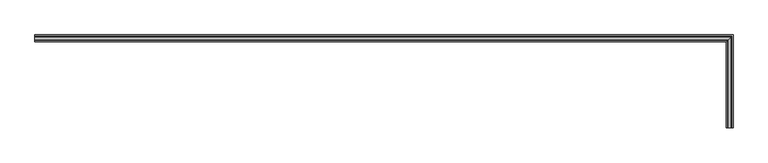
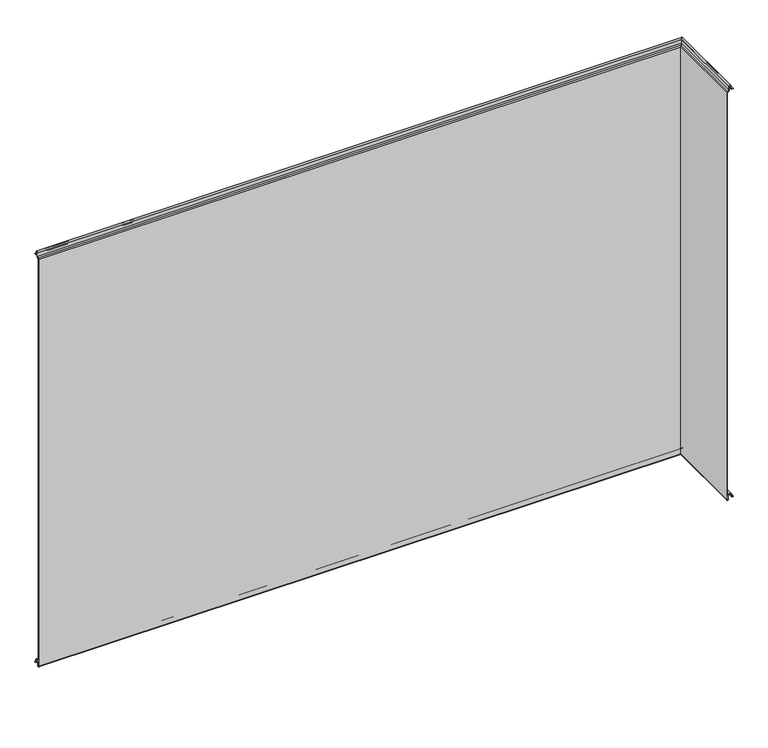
"""IFC4 building model written with IfcOpenShell, lengths in millimetres: plate geometry, Угловой модуль Fronttop : Угловой модуль Fronttop 150/1000."""

from ifc_helpers import new_model, si_unit, frame, origin, place, context, project, spatial, polyline, circle_curve, ellipse_curve, source, transform, mapped, element, save
from ifc_brep_helpers import plane_surface, cylinder_surface, revolved_surface, advanced_brep


def plate_5a5dce70(model_context):
    return source(origin(), model_context, "Body", "AdvancedBrep", [
        advanced_brep(
        [(-809.5, 13.0, 1001.0), (-809.5, 15.0, 1001.0), (-809.5, 15.0, 1000.0), (-809.5, 13.0, 1000.0), (-809.5, 9.0, 1004.0), (-809.5, 9.0, 1008.0), (-809.5, 6.0, 1008.0), (-809.5, 6.0, 999.5), (-809.5, 2.1134897, 996.0214069), (-809.5, 1.0, 995.0), (-809.5, 1.0, -0.5), (-809.5, 3.0, -0.5), (-809.5, 3.0, 8.0), (-809.5, 12.0, 8.0), (-809.5, 12.0, 4.0), (-809.5, 13.0, 3.0), (-809.5, 15.0, 3.0), (-809.5, 15.0, 2.0), (-809.5, 13.0, 2.0), (-809.5, 11.0, 4.0), (-809.5, 11.0, 8.0), (-809.5, 4.0, 8.0), (-809.5, 4.0, -0.5), (-809.5, 0.0, -0.5), (-809.5, 0.0, 995.0), (-809.5, 2.220863, 996.9877675), (-809.5, 5.0, 999.5), (-809.5, 5.0, 1008.0), (-809.5, 10.0, 1008.0), (-809.5, 10.0, 1004.0), (688.0, 13.0, 1001.0), (688.0, -184.5, 1001.0), (690.0, -184.5, 1001.0), (690.0, 15.0, 1001.0), (690.0, 15.0, 1000.0), (690.0, -184.5, 1000.0), (688.0, -184.5, 1000.0), (688.0, 13.0, 1000.0), (684.0, 9.0, 1004.0), (684.0, 9.0, 1008.0), (681.0, 6.0, 1008.0), (681.0, 6.0, 999.5), (677.1134897, 2.1134897, 996.0214069), (676.0, 1.0, 995.0), (676.0, 1.0, -0.5), (678.0, 3.0, -0.5), (678.0, 3.0, 8.0), (687.0, 12.0, 8.0), (687.0, 12.0, 4.0), (688.0, 13.0, 3.0), (688.0, -184.5, 3.0), (690.0, -184.5, 3.0), (690.0, 15.0, 3.0), (690.0, 15.0, 2.0), (690.0, -184.5, 2.0), (688.0, -184.5, 2.0), (688.0, 13.0, 2.0), (686.0, 11.0, 4.0), (686.0, 11.0, 8.0), (679.0, 4.0, 8.0), (679.0, 4.0, -0.5), (675.0, 0.0, -0.5), (675.0, 0.0, 995.0), (677.220863, 2.220863, 996.9877675), (680.0, 5.0, 999.5), (680.0, 5.0, 1008.0), (685.0, 10.0, 1008.0), (685.0, 10.0, 1004.0), (685.0, -184.5, 1004.0), (685.0, -184.5, 1008.0), (680.0, -184.5, 1008.0), (680.0, -184.5, 999.5), (677.2239212, -184.5, 997.0152907), (675.0, -184.5, 995.0), (675.0, -184.5, -0.5), (679.0, -184.5, -0.5), (679.0, -184.5, 8.0), (686.0, -184.5, 8.0), (686.0, -184.5, 4.0), (687.0, -184.5, 4.0), (687.0, -184.5, 8.0), (678.0, -184.5, 8.0), (678.0, -184.5, -0.5), (676.0, -184.5, -0.5), (676.0, -184.5, 995.0), (677.1104315, -184.5, 995.9938837), (681.0, -184.5, 999.5), (681.0, -184.5, 1008.0), (684.0, -184.5, 1008.0), (684.0, -184.5, 1004.0)],
        [
            (0, 1),
            (1, 2),
            (2, 3),
            (3, 4, circle_curve(frame((-809.5, 13.0, 1004.0), z_axis=(-1.0, 0.0, 0.0), x_axis=(0.0, -1.0, 0.0)), 4.0)),
            (4, 5),
            (5, 6, circle_curve(frame((-809.5, 7.5, 1008.0), z_axis=(1.0, 0.0, 0.0), x_axis=(0.0, -1.0, 0.0)), 1.5)),
            (6, 7),
            (7, 8, circle_curve(frame((-809.5, 2.5, 999.5), z_axis=(-1.0, 0.0, 0.0), x_axis=(0.0, -1.0, 0.0)), 3.5)),
            (8, 9, circle_curve(frame((-809.5, 2.0, 995.0), z_axis=(1.0, 0.0, 0.0), x_axis=(0.0, -1.0, 0.0)), 1.0)),
            (9, 10),
            (10, 11, circle_curve(frame((-809.5, 2.0, -0.5), z_axis=(1.0, 0.0, 0.0), x_axis=(0.0, -1.0, 0.0)), 1.0)),
            (11, 12),
            (12, 13, circle_curve(frame((-809.5, 7.5, 8.0), z_axis=(-1.0, 0.0, 0.0), x_axis=(0.0, -1.0, 0.0)), 4.5)),
            (13, 14),
            (14, 15, circle_curve(frame((-809.5, 13.0, 4.0), z_axis=(1.0, 0.0, 0.0), x_axis=(0.0, -1.0, 0.0)), 1.0)),
            (15, 16),
            (16, 17),
            (17, 18),
            (18, 19, circle_curve(frame((-809.5, 13.0, 4.0), z_axis=(-1.0, 0.0, 0.0), x_axis=(0.0, -1.0, 0.0)), 2.0)),
            (19, 20),
            (20, 21, circle_curve(frame((-809.5, 7.5, 8.0), z_axis=(1.0, 0.0, 0.0), x_axis=(0.0, -1.0, 0.0)), 3.5)),
            (21, 22),
            (22, 23, circle_curve(frame((-809.5, 2.0, -0.5), z_axis=(-1.0, 0.0, 0.0), x_axis=(0.0, -1.0, 0.0)), 2.0)),
            (23, 24),
            (24, 25, circle_curve(frame((-809.5, 2.0, 995.0), z_axis=(-1.0, 0.0, 0.0), x_axis=(0.0, -1.0, 0.0)), 2.0)),
            (25, 26, circle_curve(frame((-809.5, 2.5, 999.5), z_axis=(1.0, 0.0, 0.0), x_axis=(0.0, -1.0, 0.0)), 2.5)),
            (26, 27),
            (27, 28, circle_curve(frame((-809.5, 7.5, 1008.0), z_axis=(-1.0, 0.0, 0.0), x_axis=(0.0, -1.0, 0.0)), 2.5)),
            (28, 29),
            (29, 0, circle_curve(frame((-809.5, 13.0, 1004.0), z_axis=(1.0, 0.0, 0.0), x_axis=(0.0, -1.0, 0.0)), 3.0)),
            (0, 30),
            (30, 31),
            (31, 32),
            (32, 33),
            (33, 1),
            (33, 34),
            (34, 2),
            (34, 35),
            (35, 36),
            (36, 37),
            (37, 3),
            (37, 38, ellipse_curve(frame((688.0, 13.0, 1004.0), z_axis=(-0.7071067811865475, 0.7071067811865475, 0.0), x_axis=(-0.7071067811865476, -0.7071067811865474, 0.0)), 5.6568542, 4.0)),
            (38, 4),
            (38, 39),
            (39, 5),
            (39, 40, ellipse_curve(frame((682.5, 7.5, 1008.0), z_axis=(0.7071067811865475, -0.7071067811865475, 0.0), x_axis=(0.7071067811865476, 0.7071067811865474, 0.0)), 2.1213204, 1.5)),
            (40, 6),
            (40, 41),
            (41, 7),
            (41, 42, ellipse_curve(frame((677.5, 2.5, 999.5), z_axis=(-0.7071067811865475, 0.7071067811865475, 0.0), x_axis=(-0.7071067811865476, -0.7071067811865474, 0.0)), 4.9497475, 3.5)),
            (42, 8),
            (42, 43, ellipse_curve(frame((677.0, 2.0, 995.0), z_axis=(0.7071067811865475, -0.7071067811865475, 0.0), x_axis=(0.7071067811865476, 0.7071067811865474, 0.0)), 1.4142136, 1.0)),
            (43, 9),
            (43, 44),
            (44, 10),
            (44, 45, ellipse_curve(frame((677.0, 2.0, -0.5), z_axis=(0.7071067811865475, -0.7071067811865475, 0.0), x_axis=(0.7071067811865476, 0.7071067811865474, 0.0)), 1.4142136, 1.0)),
            (45, 11),
            (45, 46),
            (46, 12),
            (46, 47, ellipse_curve(frame((682.5, 7.5, 8.0), z_axis=(-0.7071067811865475, 0.7071067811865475, 0.0), x_axis=(-0.7071067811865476, -0.7071067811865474, 0.0)), 6.363961, 4.5)),
            (47, 13),
            (47, 48),
            (48, 14),
            (48, 49, ellipse_curve(frame((688.0, 13.0, 4.0), z_axis=(0.7071067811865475, -0.7071067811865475, 0.0), x_axis=(0.7071067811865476, 0.7071067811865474, 0.0)), 1.4142136, 1.0)),
            (49, 15),
            (49, 50),
            (50, 51),
            (51, 52),
            (52, 16),
            (52, 53),
            (53, 17),
            (53, 54),
            (54, 55),
            (55, 56),
            (56, 18),
            (56, 57, ellipse_curve(frame((688.0, 13.0, 4.0), z_axis=(-0.7071067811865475, 0.7071067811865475, 0.0), x_axis=(-0.7071067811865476, -0.7071067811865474, 0.0)), 2.8284271, 2.0)),
            (57, 19),
            (57, 58),
            (58, 20),
            (58, 59, ellipse_curve(frame((682.5, 7.5, 8.0), z_axis=(0.7071067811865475, -0.7071067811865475, 0.0), x_axis=(0.7071067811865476, 0.7071067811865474, 0.0)), 4.9497475, 3.5)),
            (59, 21),
            (59, 60),
            (60, 22),
            (60, 61, ellipse_curve(frame((677.0, 2.0, -0.5), z_axis=(-0.7071067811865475, 0.7071067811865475, 0.0), x_axis=(-0.7071067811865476, -0.7071067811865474, 0.0)), 2.8284271, 2.0)),
            (61, 23),
            (61, 62),
            (62, 24),
            (62, 63, ellipse_curve(frame((677.0, 2.0, 995.0), z_axis=(-0.7071067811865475, 0.7071067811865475, 0.0), x_axis=(-0.7071067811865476, -0.7071067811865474, 0.0)), 2.8284271, 2.0)),
            (63, 25),
            (63, 64, ellipse_curve(frame((677.5, 2.5, 999.5), z_axis=(0.7071067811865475, -0.7071067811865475, 0.0), x_axis=(0.7071067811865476, 0.7071067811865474, 0.0)), 3.5355339, 2.5)),
            (64, 26),
            (64, 65),
            (65, 27),
            (65, 66, ellipse_curve(frame((682.5, 7.5, 1008.0), z_axis=(-0.7071067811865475, 0.7071067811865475, 0.0), x_axis=(-0.7071067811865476, -0.7071067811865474, 0.0)), 3.5355339, 2.5)),
            (66, 28),
            (66, 67),
            (67, 29),
            (67, 30, ellipse_curve(frame((688.0, 13.0, 1004.0), z_axis=(0.7071067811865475, -0.7071067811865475, 0.0), x_axis=(0.7071067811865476, 0.7071067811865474, 0.0)), 4.2426407, 3.0)),
            (31, 68, circle_curve(frame((688.0, -184.5, 1004.0), z_axis=(0.0, 1.0, 0.0), x_axis=(-1.0, 0.0, 0.0)), 3.0)),
            (68, 69),
            (69, 70, circle_curve(frame((682.5, -184.5, 1008.0), z_axis=(0.0, -1.0, 0.0), x_axis=(-1.0, 0.0, 0.0)), 2.5)),
            (70, 71),
            (71, 72, circle_curve(frame((677.5, -184.5, 999.5), z_axis=(0.0, 1.0, 0.0), x_axis=(-1.0, 0.0, 0.0)), 2.5)),
            (72, 73, circle_curve(frame((677.0, -184.5, 995.0), z_axis=(0.0, -1.0, 0.0), x_axis=(-1.0, 0.0, 0.0)), 2.0)),
            (73, 74),
            (74, 75, circle_curve(frame((677.0, -184.5, -0.5), z_axis=(0.0, -1.0, 0.0), x_axis=(-1.0, 0.0, 0.0)), 2.0)),
            (75, 76),
            (76, 77, circle_curve(frame((682.5, -184.5, 8.0), z_axis=(0.0, 1.0, 0.0), x_axis=(-1.0, 0.0, 0.0)), 3.5)),
            (77, 78),
            (78, 55, circle_curve(frame((688.0, -184.5, 4.0), z_axis=(0.0, -1.0, 0.0), x_axis=(-1.0, 0.0, 0.0)), 2.0)),
            (54, 51),
            (50, 79, circle_curve(frame((688.0, -184.5, 4.0), z_axis=(0.0, 1.0, 0.0), x_axis=(-1.0, 0.0, 0.0)), 1.0)),
            (79, 80),
            (80, 81, circle_curve(frame((682.5, -184.5, 8.0), z_axis=(0.0, -1.0, 0.0), x_axis=(-1.0, 0.0, 0.0)), 4.5)),
            (81, 82),
            (82, 83, circle_curve(frame((677.0, -184.5, -0.5), z_axis=(0.0, 1.0, 0.0), x_axis=(-1.0, 0.0, 0.0)), 1.0)),
            (83, 84),
            (84, 85, circle_curve(frame((677.0, -184.5, 995.0), z_axis=(0.0, 1.0, 0.0), x_axis=(-1.0, 0.0, 0.0)), 1.0)),
            (85, 86, circle_curve(frame((677.5, -184.5, 999.5), z_axis=(0.0, -1.0, 0.0), x_axis=(-1.0, 0.0, 0.0)), 3.5)),
            (86, 87),
            (87, 88, circle_curve(frame((682.5, -184.5, 1008.0), z_axis=(0.0, 1.0, 0.0), x_axis=(-1.0, 0.0, 0.0)), 1.5)),
            (88, 89),
            (89, 36, circle_curve(frame((688.0, -184.5, 1004.0), z_axis=(0.0, -1.0, 0.0), x_axis=(-1.0, 0.0, 0.0)), 4.0)),
            (35, 32),
            (89, 38),
            (88, 39),
            (87, 40),
            (86, 41),
            (85, 42),
            (84, 43),
            (83, 44),
            (82, 45),
            (81, 46),
            (80, 47),
            (79, 48),
            (78, 57),
            (77, 58),
            (76, 59),
            (75, 60),
            (74, 61),
            (73, 62),
            (72, 63),
            (71, 64),
            (70, 65),
            (69, 66),
            (68, 67),
        ],
        [
            plane_surface(frame((-809.5, 0.0, 0.0), z_axis=(-1.0, 0.0, 0.0), x_axis=(0.0, 0.0, 1.0))),
            plane_surface(frame((-809.5, 13.0, 1001.0), z_axis=(0.0, 0.0, 1.0), x_axis=(1.0, 0.0, 0.0))),
            plane_surface(frame((-809.5, 15.0, 1001.0), z_axis=(0.0, 1.0, 0.0), x_axis=(1.0, 0.0, 0.0))),
            plane_surface(frame((-809.5, 15.0, 1000.0), z_axis=(0.0, 0.0, -1.0), x_axis=(1.0, 0.0, 0.0))),
            cylinder_surface(frame((-809.5, 13.0, 1004.0), z_axis=(-1.0, 0.0, 0.0), x_axis=(0.0, -1.0, 0.0)), 4.0),
            plane_surface(frame((-809.5, 9.0, 1004.0), z_axis=(0.0, -1.0, 0.0), x_axis=(1.0, 0.0, 0.0))),
            revolved_surface(polyline([(684.0000000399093, 6.0, 1008.0), (-809.5, 6.0, 1008.0)]), (-809.5, 7.5, 1008.0), (1.0, 0.0, 0.0)),
            plane_surface(frame((-809.5, 6.0, 1008.0), z_axis=(0.0, 1.0, 0.0), x_axis=(1.0, 0.0, 0.0))),
            cylinder_surface(frame((-809.5, 2.5, 999.5), z_axis=(-1.0, 0.0, 0.0), x_axis=(0.0, -1.0, 0.0)), 3.5),
            revolved_surface(polyline([(678.0000000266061, 1.0, 995.0), (-809.5, 1.0, 995.0)]), (-809.5, 2.0, 995.0), (1.0, 0.0, 0.0)),
            plane_surface(frame((-809.5, 1.0, 995.0), z_axis=(0.0, 1.0, 0.0), x_axis=(1.0, 0.0, 0.0))),
            revolved_surface(polyline([(678.0000000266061, 1.0, -0.5), (-809.5, 1.0, -0.5)]), (-809.5, 2.0, -0.5), (1.0, 0.0, 0.0)),
            plane_surface(frame((-809.5, 3.0, -0.5), z_axis=(0.0, -1.0, 0.0), x_axis=(1.0, 0.0, 0.0))),
            cylinder_surface(frame((-809.5, 7.5, 8.0), z_axis=(-1.0, 0.0, 0.0), x_axis=(0.0, -1.0, 0.0)), 4.5),
            plane_surface(frame((-809.5, 12.0, 8.0), z_axis=(0.0, 1.0, 0.0), x_axis=(1.0, 0.0, 0.0))),
            revolved_surface(polyline([(689.0000000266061, 12.0, 4.0), (-809.5, 12.0, 4.0)]), (-809.5, 13.0, 4.0), (1.0, 0.0, 0.0)),
            plane_surface(frame((-809.5, 13.0, 3.0), z_axis=(0.0, 0.0, 1.0), x_axis=(1.0, 0.0, 0.0))),
            plane_surface(frame((-809.5, 15.0, 3.0), z_axis=(0.0, 1.0, 0.0), x_axis=(1.0, 0.0, 0.0))),
            plane_surface(frame((-809.5, 15.0, 2.0), z_axis=(0.0, 0.0, -1.0), x_axis=(1.0, 0.0, 0.0))),
            cylinder_surface(frame((-809.5, 13.0, 4.0), z_axis=(-1.0, 0.0, 0.0), x_axis=(0.0, -1.0, 0.0)), 2.0),
            plane_surface(frame((-809.5, 11.0, 4.0), z_axis=(0.0, -1.0, 0.0), x_axis=(1.0, 0.0, 0.0))),
            revolved_surface(polyline([(686.0000000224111, 4.0, 8.0), (-809.5, 4.0, 8.0)]), (-809.5, 7.5, 8.0), (1.0, 0.0, 0.0)),
            plane_surface(frame((-809.5, 4.0, 8.0), z_axis=(0.0, 1.0, 0.0), x_axis=(1.0, 0.0, 0.0))),
            cylinder_surface(frame((-809.5, 2.0, -0.5), z_axis=(-1.0, 0.0, 0.0), x_axis=(0.0, -1.0, 0.0)), 2.0),
            plane_surface(frame((-809.5, 0.0, -0.5), z_axis=(0.0, -1.0, 0.0), x_axis=(1.0, 0.0, 0.0))),
            cylinder_surface(frame((-809.5, 2.0, 995.0), z_axis=(-1.0, 0.0, 0.0), x_axis=(0.0, -1.0, 0.0)), 2.0),
            revolved_surface(polyline([(680.0, 0.0, 999.5), (-809.5, 0.0, 999.5)]), (-809.5, 2.5, 999.5), (1.0, 0.0, 0.0)),
            plane_surface(frame((-809.5, 5.0, 999.5), z_axis=(0.0, -1.0, 0.0), x_axis=(1.0, 0.0, 0.0))),
            cylinder_surface(frame((-809.5, 7.5, 1008.0), z_axis=(-1.0, 0.0, 0.0), x_axis=(0.0, -1.0, 0.0)), 2.5),
            plane_surface(frame((-809.5, 10.0, 1008.0), z_axis=(0.0, 1.0, 0.0), x_axis=(1.0, 0.0, 0.0))),
            revolved_surface(polyline([(691.0000000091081, 10.0, 1004.0), (-809.5, 10.0, 1004.0)]), (-809.5, 13.0, 1004.0), (1.0, 0.0, 0.0)),
            plane_surface(frame((675.0, -184.5, 0.0), z_axis=(0.0, -1.0, 0.0), x_axis=(0.0, 0.0, 1.0))),
            plane_surface(frame((690.0, 15.0, 1001.0), z_axis=(1.0, 0.0, 0.0), x_axis=(0.0, -1.0, 0.0))),
            cylinder_surface(frame((688.0, 0.0, 1004.0), z_axis=(0.0, 1.0, 0.0), x_axis=(-1.0, 0.0, 0.0)), 4.0),
            plane_surface(frame((684.0, 9.0, 1004.0), z_axis=(-1.0, 0.0, 0.0), x_axis=(0.0, -1.0, 0.0))),
            revolved_surface(polyline([(681.0, -184.5, 1008.0), (681.0, 9.00000003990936, 1008.0)]), (682.5, 0.0, 1008.0), (0.0, -1.0, 0.0)),
            plane_surface(frame((681.0, 6.0, 1008.0), z_axis=(1.0, 0.0, 0.0), x_axis=(0.0, -1.0, 0.0))),
            cylinder_surface(frame((677.5, 0.0, 999.5), z_axis=(0.0, 1.0, 0.0), x_axis=(-1.0, 0.0, 0.0)), 3.5),
            revolved_surface(polyline([(676.0, -184.5, 995.0), (676.0, 3.0000000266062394, 995.0)]), (677.0, 0.0, 995.0), (0.0, -1.0, 0.0)),
            plane_surface(frame((676.0, 1.0, 995.0), z_axis=(1.0, 0.0, 0.0), x_axis=(0.0, -1.0, 0.0))),
            revolved_surface(polyline([(676.0, -184.5, -0.5), (676.0, 3.0000000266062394, -0.5)]), (677.0, 0.0, -0.5), (0.0, -1.0, 0.0)),
            plane_surface(frame((678.0, 3.0, -0.5), z_axis=(-1.0, 0.0, 0.0), x_axis=(0.0, -1.0, 0.0))),
            cylinder_surface(frame((682.5, 0.0, 8.0), z_axis=(0.0, 1.0, 0.0), x_axis=(-1.0, 0.0, 0.0)), 4.5),
            plane_surface(frame((687.0, 12.0, 8.0), z_axis=(1.0, 0.0, 0.0), x_axis=(0.0, -1.0, 0.0))),
            revolved_surface(polyline([(687.0, -184.5, 4.0), (687.0, 14.000000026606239, 4.0)]), (688.0, 0.0, 4.0), (0.0, -1.0, 0.0)),
            plane_surface(frame((690.0, 15.0, 3.0), z_axis=(1.0, 0.0, 0.0), x_axis=(0.0, -1.0, 0.0))),
            cylinder_surface(frame((688.0, 0.0, 4.0), z_axis=(0.0, 1.0, 0.0), x_axis=(-1.0, 0.0, 0.0)), 2.0),
            plane_surface(frame((686.0, 11.0, 4.0), z_axis=(-1.0, 0.0, 0.0), x_axis=(0.0, -1.0, 0.0))),
            revolved_surface(polyline([(679.0, -184.5, 8.0), (679.0, 11.00000002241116, 8.0)]), (682.5, 0.0, 8.0), (0.0, -1.0, 0.0)),
            plane_surface(frame((679.0, 4.0, 8.0), z_axis=(1.0, 0.0, 0.0), x_axis=(0.0, -1.0, 0.0))),
            cylinder_surface(frame((677.0, 0.0, -0.5), z_axis=(0.0, 1.0, 0.0), x_axis=(-1.0, 0.0, 0.0)), 2.0),
            plane_surface(frame((675.0, 0.0, -0.5), z_axis=(-1.0, 0.0, 0.0), x_axis=(0.0, -1.0, 0.0))),
            cylinder_surface(frame((677.0, 0.0, 995.0), z_axis=(0.0, 1.0, 0.0), x_axis=(-1.0, 0.0, 0.0)), 2.0),
            revolved_surface(polyline([(675.0, -184.5, 999.5), (675.0, 5.0, 999.5)]), (677.5, 0.0, 999.5), (0.0, -1.0, 0.0)),
            plane_surface(frame((680.0, 5.0, 999.5), z_axis=(-1.0, 0.0, 0.0), x_axis=(0.0, -1.0, 0.0))),
            cylinder_surface(frame((682.5, 0.0, 1008.0), z_axis=(0.0, 1.0, 0.0), x_axis=(-1.0, 0.0, 0.0)), 2.5),
            plane_surface(frame((685.0, 10.0, 1008.0), z_axis=(1.0, 0.0, 0.0), x_axis=(0.0, -1.0, 0.0))),
            revolved_surface(polyline([(685.0, -184.5, 1004.0), (685.0, 16.00000000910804, 1004.0)]), (688.0, 0.0, 1004.0), (0.0, -1.0, 0.0)),
        ],
        [
            (0, [[1, 2, 3, 4, 5, 6, 7, 8, 9, 10, 11, 12, 13, 14, 15, 16, 17, 18, 19, 20, 21, 22, 23, 24, 25, 26, 27, 28, 29, 30]]),
            (1, [[-1, 31, 32, 33, 34, 35]]),
            (2, [[-2, -35, 36, 37]]),
            (3, [[-3, -37, 38, 39, 40, 41]]),
            (4, [[-4, -41, 42, 43]]),
            (5, [[-5, -43, 44, 45]]),
            (6, [[-6, -45, 46, 47]]),
            (7, [[-7, -47, 48, 49]]),
            (8, [[-8, -49, 50, 51]]),
            (9, [[-9, -51, 52, 53]]),
            (10, [[-10, -53, 54, 55]]),
            (11, [[-11, -55, 56, 57]]),
            (12, [[-12, -57, 58, 59]]),
            (13, [[-13, -59, 60, 61]]),
            (14, [[-14, -61, 62, 63]]),
            (15, [[-15, -63, 64, 65]]),
            (16, [[-16, -65, 66, 67, 68, 69]]),
            (17, [[-17, -69, 70, 71]]),
            (18, [[-18, -71, 72, 73, 74, 75]]),
            (19, [[-19, -75, 76, 77]]),
            (20, [[-20, -77, 78, 79]]),
            (21, [[-21, -79, 80, 81]]),
            (22, [[-22, -81, 82, 83]]),
            (23, [[-23, -83, 84, 85]]),
            (24, [[-24, -85, 86, 87]]),
            (25, [[-25, -87, 88, 89]]),
            (26, [[-26, -89, 90, 91]]),
            (27, [[-27, -91, 92, 93]]),
            (28, [[-28, -93, 94, 95]]),
            (29, [[-29, -95, 96, 97]]),
            (30, [[-30, -97, 98, -31]]),
            (31, [[99, 100, 101, 102, 103, 104, 105, 106, 107, 108, 109, 110, -73, 111, -67, 112, 113, 114, 115, 116, 117, 118, 119, 120, 121, 122, 123, -39, 124, -33]]),
            (32, [[-36, -34, -124, -38]]),
            (33, [[-42, -40, -123, 125]]),
            (34, [[-44, -125, -122, 126]]),
            (35, [[-46, -126, -121, 127]]),
            (36, [[-48, -127, -120, 128]]),
            (37, [[-50, -128, -119, 129]]),
            (38, [[-52, -129, -118, 130]]),
            (39, [[-54, -130, -117, 131]]),
            (40, [[-56, -131, -116, 132]]),
            (41, [[-58, -132, -115, 133]]),
            (42, [[-60, -133, -114, 134]]),
            (43, [[-62, -134, -113, 135]]),
            (44, [[-64, -135, -112, -66]]),
            (45, [[-70, -68, -111, -72]]),
            (46, [[-76, -74, -110, 136]]),
            (47, [[-78, -136, -109, 137]]),
            (48, [[-80, -137, -108, 138]]),
            (49, [[-82, -138, -107, 139]]),
            (50, [[-84, -139, -106, 140]]),
            (51, [[-86, -140, -105, 141]]),
            (52, [[-88, -141, -104, 142]]),
            (53, [[-90, -142, -103, 143]]),
            (54, [[-92, -143, -102, 144]]),
            (55, [[-94, -144, -101, 145]]),
            (56, [[-96, -145, -100, 146]]),
            (57, [[-98, -146, -99, -32]]),
        ],
    ),
    ])


if __name__ == "__main__":
    model = new_model("IFC4")
    model_context = context("Model", 3, world=origin())
    ifc_project = project(units=[si_unit("LENGTHUNIT", "METRE", prefix="MILLI")], contexts=[model_context])
    site = spatial("IfcSite", under=ifc_project)
    building = spatial("IfcBuilding", under=site)
    placement = place(None, origin())
    plate_shape = plate_5a5dce70(model_context)
    element("IfcPlate", 1, ObjectType="Угловой модуль Fronttop : Угловой модуль Fronttop 150/1000", at=placement, inside=building, context=model_context, shape_type="MappedRepresentation", body=[
        mapped(plate_shape, transform((0.0, 0.0, 0.0), x_axis=(1.0, 0.0, 0.0), y_axis=(0.0, 1.0, 0.0), z_axis=(0.0, 0.0, 1.0))),
    ])
    save(model, "model.ifc")
